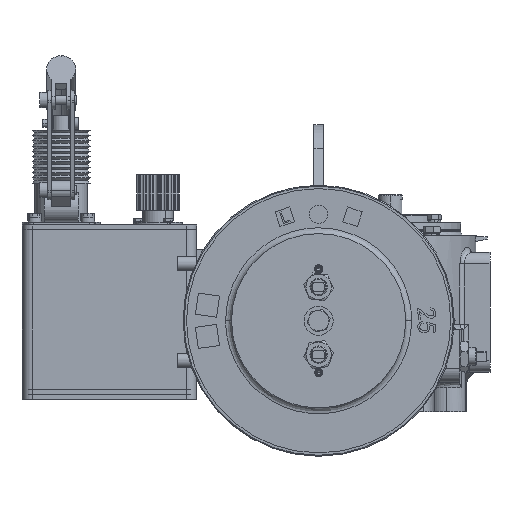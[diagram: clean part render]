
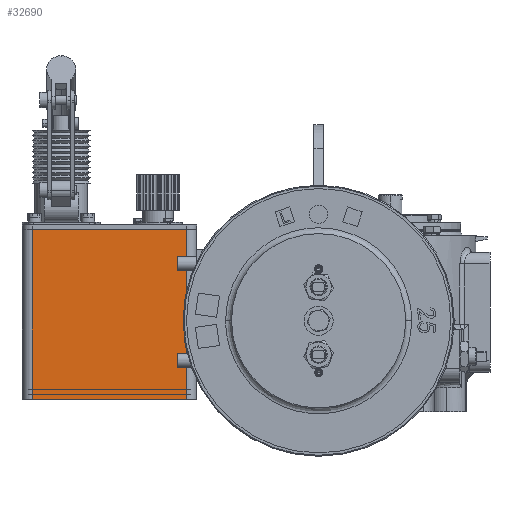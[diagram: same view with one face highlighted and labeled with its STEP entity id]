
A CAD part, left-side view. The second image highlights one B-rep face of the part: STEP entity #32690.
In plain terms, the highlighted planar face has unit normal (-1, 0, 0).
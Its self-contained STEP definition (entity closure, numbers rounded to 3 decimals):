
#810 = EDGE_LOOP ( 'NONE', ( #8490, #20083, #69676, #73847 ) ) ;
#2810 = CARTESIAN_POINT ( 'NONE',  ( -88.523, 251.296, -79. ) ) ;
#3637 = LINE ( 'NONE', #30065, #41391 ) ;
#3885 = DIRECTION ( 'NONE',  ( 0., 0., -1. ) ) ;
#8490 = ORIENTED_EDGE ( 'NONE', *, *, #65463, .F. ) ;
#10907 = VERTEX_POINT ( 'NONE', #16811 ) ;
#11029 = VECTOR ( 'NONE', #3885, 1000. ) ;
#14599 = VERTEX_POINT ( 'NONE', #54511 ) ;
#15957 = DIRECTION ( 'NONE',  ( 0., 0., -1. ) ) ;
#16811 = CARTESIAN_POINT ( 'NONE',  ( -88.523, 331.296, 96. ) ) ;
#17709 = EDGE_CURVE ( 'NONE', #10907, #71029, #3637, .T. ) ;
#19949 = CARTESIAN_POINT ( 'NONE',  ( -88.523, 171.296, -79. ) ) ;
#20083 = ORIENTED_EDGE ( 'NONE', *, *, #45897, .T. ) ;
#25702 = DIRECTION ( 'NONE',  ( 1., 0., 0. ) ) ;
#26097 = VECTOR ( 'NONE', #43543, 1000. ) ;
#30065 = CARTESIAN_POINT ( 'NONE',  ( -88.523, 331.296, 8.5 ) ) ;
#32690 = ADVANCED_FACE ( 'NONE', ( #53806 ), #67467, .F. ) ;
#37356 = LINE ( 'NONE', #63757, #11029 ) ;
#37650 = AXIS2_PLACEMENT_3D ( 'NONE', #19949, #25702, #47208 ) ;
#40182 = EDGE_CURVE ( 'NONE', #14599, #71029, #69281, .T. ) ;
#41391 = VECTOR ( 'NONE', #15957, 1000. ) ;
#43543 = DIRECTION ( 'NONE',  ( 0., 1., 0. ) ) ;
#45897 = EDGE_CURVE ( 'NONE', #76270, #10907, #49699, .T. ) ;
#47208 = DIRECTION ( 'NONE',  ( 0., 1., 0. ) ) ;
#49699 = LINE ( 'NONE', #69937, #26097 ) ;
#53806 = FACE_OUTER_BOUND ( 'NONE', #810, .T. ) ;
#54511 = CARTESIAN_POINT ( 'NONE',  ( -88.523, 171.296, -79. ) ) ;
#56057 = DIRECTION ( 'NONE',  ( 0., 1., 0. ) ) ;
#61811 = CARTESIAN_POINT ( 'NONE',  ( -88.523, 171.296, 96. ) ) ;
#63757 = CARTESIAN_POINT ( 'NONE',  ( -88.523, 171.296, 8.5 ) ) ;
#65463 = EDGE_CURVE ( 'NONE', #76270, #14599, #37356, .T. ) ;
#67467 = PLANE ( 'NONE',  #37650 ) ;
#69281 = LINE ( 'NONE', #2810, #84284 ) ;
#69676 = ORIENTED_EDGE ( 'NONE', *, *, #17709, .T. ) ;
#69937 = CARTESIAN_POINT ( 'NONE',  ( -88.523, 251.296, 96. ) ) ;
#71029 = VERTEX_POINT ( 'NONE', #73328 ) ;
#73328 = CARTESIAN_POINT ( 'NONE',  ( -88.523, 331.296, -79. ) ) ;
#73847 = ORIENTED_EDGE ( 'NONE', *, *, #40182, .F. ) ;
#76270 = VERTEX_POINT ( 'NONE', #61811 ) ;
#84284 = VECTOR ( 'NONE', #56057, 1000. ) ;
